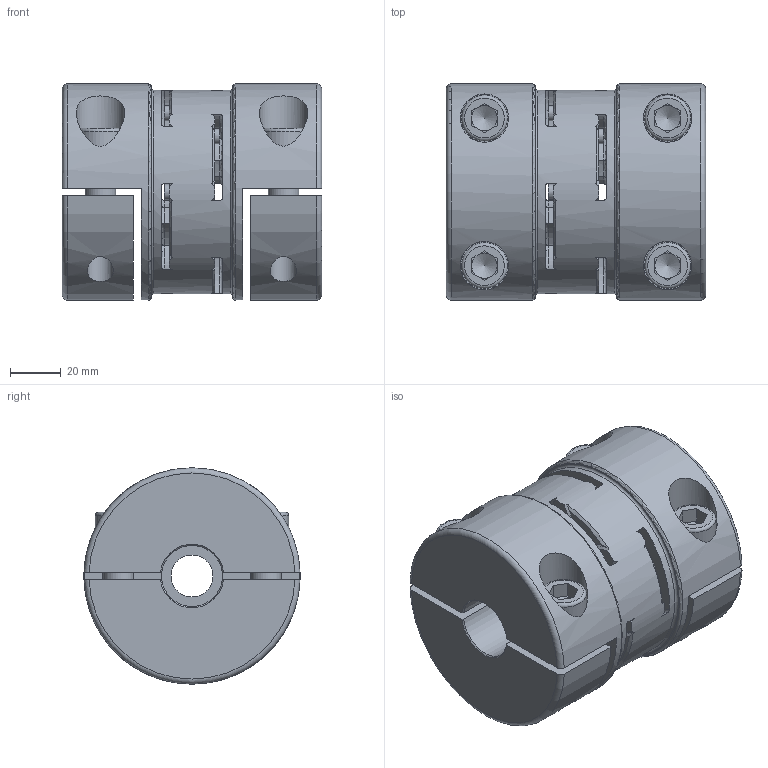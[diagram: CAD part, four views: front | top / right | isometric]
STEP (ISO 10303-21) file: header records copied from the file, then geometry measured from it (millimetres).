
FILE_DESCRIPTION( ( 'Unknown' ), '1' );
FILE_NAME( 'F:/PR/14_Step-Dateien/EKH/EKH 400 - Ø24.stp', 'Unknown', ( 'Unknown' ), ( 'Unknown' ), 'PSStep 10.1', 'Unknown', ' ' );
FILE_SCHEMA( ( 'AUTOMOTIVE_DESIGN { 1 0 10303 214 1 1 1 1 }' ) );
Length unit declared in the file: millimetre
Products named in the file (1): 29822871
Bounding box: 102 x 84.99 x 85 mm (x, y, z)
Volume: 440791.2 mm3; surface area: 90369.8 mm2
Topology: 1 solids, 1 shells, 330 faces, 877 edges, 561 vertices
Faces by surface type: plane 108, cylinder 108, cone 76, torus 38
Full cylindrical faces by diameter (mm): 6 x8, 10.2 x4, 12 x4, 12.5 x4, 13 x4, 16.5 x1, 18 x4, 19 x4, 24 x2, 38 x2, 80 x1, 85 x2
Entity records: 13856 total; most frequent: CARTESIAN_POINT 3491, DIRECTION 1578, ORIENTED_EDGE 1572, EDGE_CURVE 786, AXIS2_PLACEMENT_3D 677, VERTEX_POINT 534, EDGE_LOOP 440, FACE_OUTER_BOUND 380
